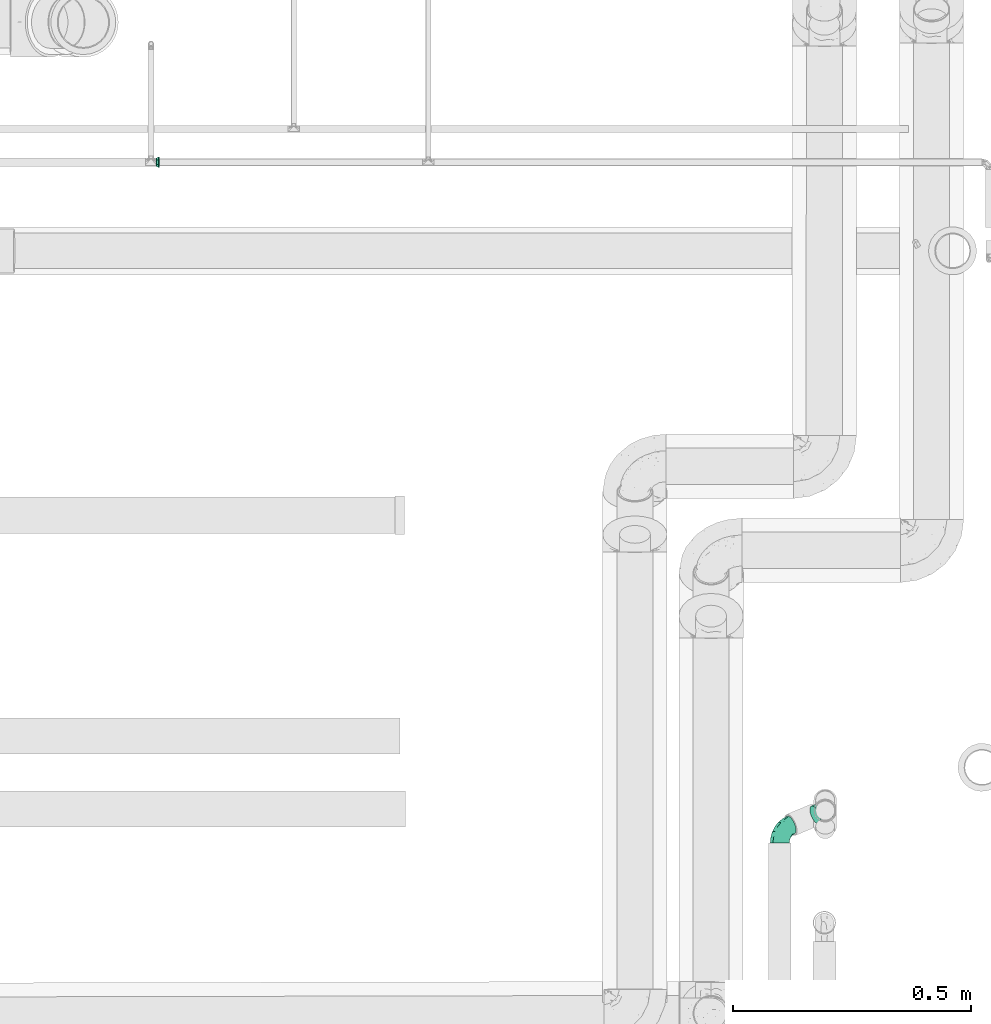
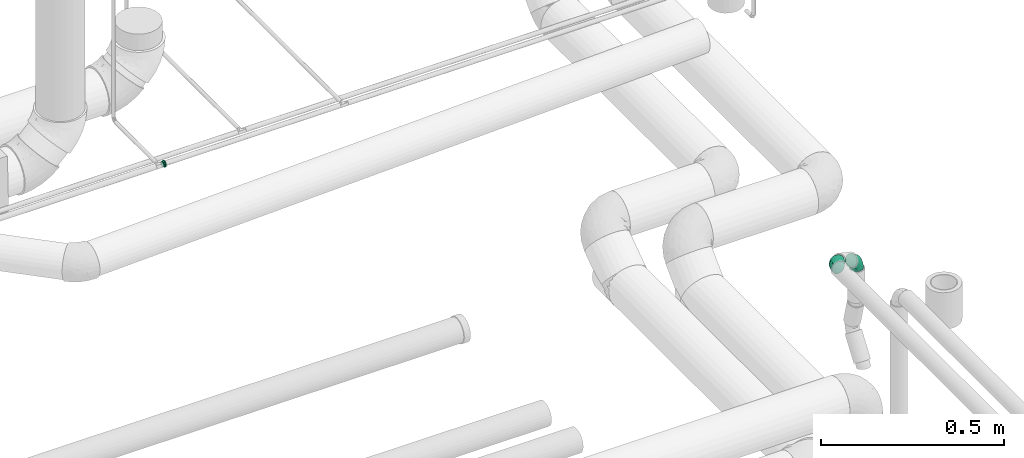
# One storey, part 150 of 156: 3 flow fittings.
"""IFC2X3 building model written with IfcOpenShell, lengths in millimetres."""

import ifcopenshell
import ifcopenshell.guid

model = None  # the IFC model being written
_history = None  # IfcOwnerHistory: only IFC2X3 demands one
_inside = {}  # id of a spatial element -> (the spatial element, [elements in it])
_under = {}  # id of a project, library or spatial element -> (it, [spatial elements below it])
_declared = {}  # id of a project -> (the project, [libraries it declares])
_typed = {}  # id of a type object -> (the type object, [elements of that type])
_made_of = {}  # id of a material, layer set ... -> (it, [elements and type objects made of it])


def new_model(schema):
    """Start an empty IFC model of exactly this schema.

    Asked for "IFC4X3", IfcOpenShell would pick the latest addendum, in which some entities
    have other attributes; the version numbers below select the first issue.
    IFC2X3 requires an IfcOwnerHistory on every rooted entity: one is made here for all.
    """
    global model, _history
    if schema == "IFC4X3":
        model = ifcopenshell.file(schema_version=(4, 3, 0, 0))
    else:
        model = ifcopenshell.file(schema=schema)
    _inside.clear()
    _under.clear()
    _declared.clear()
    _typed.clear()
    _made_of.clear()
    _history = None
    if model.schema == "IFC2X3":
        org = make("IfcOrganization", Name="unknown")
        user = make(
            "IfcPersonAndOrganization",
            ThePerson=make("IfcPerson", FamilyName="unknown"),
            TheOrganization=org,
        )
        app = make(
            "IfcApplication",
            ApplicationDeveloper=org,
            Version="unknown",
            ApplicationFullName="unknown",
            ApplicationIdentifier="unknown",
        )
        _history = make(
            "IfcOwnerHistory",
            OwningUser=user,
            OwningApplication=app,
            ChangeAction="ADDED",
            CreationDate=0,
        )
    return model


def make(cls, **values):
    """One entity of the class cls with the attributes given. An attribute that is None is left unset."""
    return model.create_entity(
        cls, **{name: value for name, value in values.items() if value is not None}
    )


def entity(cls, *values):
    """Any entity or typed value of the class cls, its attributes in the order of the schema. None: left unset."""
    e = model.create_entity(cls)
    for i, value in enumerate(values):
        if value is not None:
            e[i] = value
    return e


def rooted(cls, **values):
    """An entity with a GlobalId (a new one), such as an element, a storey or a relation."""
    return make(cls, GlobalId=ifcopenshell.guid.new(), OwnerHistory=_history, **values)


def si_unit(unit_type, name, prefix=None):
    """IfcSIUnit, for example si_unit("LENGTHUNIT", "METRE", prefix="MILLI")."""
    return make("IfcSIUnit", UnitType=unit_type, Prefix=prefix, Name=name)


def converted_unit(unit_type, name, factor, base, dimensions=None, offset=None):
    """IfcConversionBasedUnit, such as the inch: factor (a typed value) times the base unit."""
    return make(
        "IfcConversionBasedUnit"
        if offset is None
        else "IfcConversionBasedUnitWithOffset",
        ConversionOffset=offset,
        Dimensions=None
        if dimensions is None
        else entity("IfcDimensionalExponents", *dimensions),
        UnitType=unit_type,
        Name=name,
        ConversionFactor=make(
            "IfcMeasureWithUnit", ValueComponent=factor, UnitComponent=base
        ),
    )


def derived_unit(unit_type, elements):
    """IfcDerivedUnit: a product of units, each with its exponent."""
    return make(
        "IfcDerivedUnit",
        Elements=[
            make("IfcDerivedUnitElement", Unit=unit, Exponent=power)
            for unit, power in elements
        ],
        UnitType=unit_type,
    )


def assignment(units):
    """IfcUnitAssignment: the units of a project."""
    return None if units is None else make("IfcUnitAssignment", Units=units)


def point(xyz):
    """IfcCartesianPoint."""
    return None if xyz is None else make("IfcCartesianPoint", Coordinates=xyz)


def direction(xyz):
    """IfcDirection."""
    return None if xyz is None else make("IfcDirection", DirectionRatios=xyz)


def frame(location, z_axis=None, x_axis=None):
    """IfcAxis2Placement3D, a coordinate frame: its origin and axes. An axis left out is left unset."""
    return make(
        "IfcAxis2Placement3D",
        Location=point(location),
        Axis=direction(z_axis),
        RefDirection=direction(x_axis),
    )


def origin_with_axes():
    """The frame at (0, 0, 0) with the z axis (0, 0, 1) and the x axis (1, 0, 0) written out."""
    return frame((0.0, 0.0, 0.0), z_axis=(0.0, 0.0, 1.0), x_axis=(1.0, 0.0, 0.0))


def place(relative_to, where):
    """IfcLocalPlacement: puts the frame where relative to a parent placement (None: the world)."""
    return make(
        "IfcLocalPlacement", PlacementRelTo=relative_to, RelativePlacement=where
    )


def context(
    kind, dimensions, precision=None, world=None, true_north=None, identifier=None
):
    """IfcGeometricRepresentationContext, for example the 3D "Model" context."""
    return make(
        "IfcGeometricRepresentationContext",
        ContextIdentifier=identifier,
        ContextType=kind,
        CoordinateSpaceDimension=dimensions,
        Precision=precision,
        WorldCoordinateSystem=world,
        TrueNorth=true_north,
    )


def subcontext(parent, identifier, kind, view, scale=None):
    """IfcGeometricRepresentationSubContext, for example "Body" below "Model"."""
    return make(
        "IfcGeometricRepresentationSubContext",
        ContextIdentifier=identifier,
        ContextType=kind,
        ParentContext=parent,
        TargetScale=scale,
        TargetView=view,
    )


def project(units=None, contexts=None):
    """IfcProject with its units and contexts."""
    return rooted(
        "IfcProject",
        Name="project",
        RepresentationContexts=contexts,
        UnitsInContext=assignment(units),
    )


def spatial(cls, under=None, at=None, **own):
    """A site, building, storey or space (cls), placed at a placement, below another one or the project."""
    s = rooted(cls, ObjectPlacement=at, **own)
    if under is not None:
        _under.setdefault(under.id(), (under, []))[1].append(s)
    return s


def faces_of(points, faces, orient=None, outer=None):
    """IfcFace entities. A face is a list of loops; a loop is a list of indices into points, from 0.

    orient and outer hold one flag for each loop. By default every Orientation is true, the
    first loop of a face is its IfcFaceOuterBound and the others are IfcFaceBound.
    """
    made = []
    for i, loops in enumerate(faces):
        bounds = []
        for j, loop in enumerate(loops):
            is_outer = j == 0 if outer is None else outer[i][j]
            bounds.append(
                make(
                    "IfcFaceOuterBound" if is_outer else "IfcFaceBound",
                    Bound=make("IfcPolyLoop", Polygon=[points[k] for k in loop]),
                    Orientation=True if orient is None else orient[i][j],
                )
            )
        made.append(make("IfcFace", Bounds=bounds))
    return made


def open_shell(faces, orient=None, outer=None):
    """The faces of one IfcOpenShell. surface_model builds it on its shared points."""
    return ("IfcOpenShell", faces, orient, outer)


def surface_model(cls, points, shells):
    """IfcFaceBasedSurfaceModel or IfcShellBasedSurfaceModel (cls): surfaces that need not close."""
    shared = [point(p) for p in points]
    made = [make(c, CfsFaces=faces_of(shared, fs, o, b)) for c, fs, o, b in shells]
    if cls == "IfcFaceBasedSurfaceModel":
        return make(cls, FbsmFaces=made)
    return make(cls, SbsmBoundary=made)


def shape(context_of_items, identifier, shape_type, items):
    """IfcShapeRepresentation: the items that make up one representation, for example the "Body"."""
    return make(
        "IfcShapeRepresentation",
        ContextOfItems=context_of_items,
        RepresentationIdentifier=identifier,
        RepresentationType=shape_type,
        Items=items,
    )


def source(mapping_origin, context_of_items, identifier, shape_type, items):
    """IfcRepresentationMap: a shape defined once, which mapped items show again and again."""
    return make(
        "IfcRepresentationMap",
        MappingOrigin=mapping_origin,
        MappedRepresentation=shape(context_of_items, identifier, shape_type, items),
    )


def transform(
    local_origin,
    x_axis=None,
    y_axis=None,
    z_axis=None,
    scale=None,
    scale2=None,
    scale3=None,
    uniform=True,
):
    """IfcCartesianTransformationOperator3D, or its non-uniform kind. x_axis, y_axis, z_axis: its Axis1, 2, 3."""
    if uniform:
        return make(
            "IfcCartesianTransformationOperator3D",
            Axis1=direction(x_axis),
            Axis2=direction(y_axis),
            LocalOrigin=point(local_origin),
            Scale=scale,
            Axis3=direction(z_axis),
        )
    return make(
        "IfcCartesianTransformationOperator3DnonUniform",
        Axis1=direction(x_axis),
        Axis2=direction(y_axis),
        LocalOrigin=point(local_origin),
        Scale=scale,
        Axis3=direction(z_axis),
        Scale2=scale2,
        Scale3=scale3,
    )


def mapped(mapping_source, mapping_target):
    """IfcMappedItem: shows the shape of a source again, moved by a transform."""
    return make(
        "IfcMappedItem", MappingSource=mapping_source, MappingTarget=mapping_target
    )


def made_of(thing, what):
    """Note that an element or type object is made of a material, layer set ...; save() writes the relation."""
    if what is not None:
        _made_of.setdefault(what.id(), (what, []))[1].append(thing)
    return thing


def type_object(cls, material=None, **own):
    """A type object (cls), such as IfcWallType, which elements share."""
    return made_of(rooted(cls, **own), material)


def element(
    cls,
    number,
    at=None,
    inside=None,
    cuts=None,
    type_object=None,
    material=None,
    context=None,
    identifier="Body",
    shape_type=None,
    held_by="IfcProductDefinitionShape",
    body=None,
    shapes=None,
    **own,
):
    """One element of the class cls, such as IfcWall. Its Tag is "e" and its number.

    at: its placement. inside: the storey or other place that contains it. cuts: it is an
    opening in that element (IfcRelVoidsElement). A single representation is given by context,
    identifier, shape_type and body (its items); several are given by shapes. held_by: the class
    of the entity that holds the representations. save() writes the other relations.
    """
    e = rooted(cls, Tag="e%d" % number, ObjectPlacement=at, **own)
    if body is not None:
        shapes = [shape(context, identifier, shape_type, body)]
    if shapes is not None:
        e.Representation = make(held_by, Representations=shapes)
    if inside is not None:
        _inside.setdefault(inside.id(), (inside, []))[1].append(e)
    if cuts is not None:
        rooted(
            "IfcRelVoidsElement", RelatingBuildingElement=cuts, RelatedOpeningElement=e
        )
    if type_object is not None:
        _typed.setdefault(type_object.id(), (type_object, []))[1].append(e)
    return made_of(e, material)


def aggregate(whole, parts):
    """IfcRelAggregates: a whole, such as a stair, and the parts it consists of."""
    return rooted("IfcRelAggregates", RelatingObject=whole, RelatedObjects=parts)


def save(model, path):
    """Write the relations noted so far, then the file.

    IfcRelAggregates (storeys below a building ...), IfcRelContainedInSpatialStructure (elements
    in a storey), IfcRelDefinesByType, IfcRelAssociatesMaterial and IfcRelDeclares: one each for
    every whole, place, type object, material and project.
    """
    for whole, parts in _under.values():
        aggregate(whole, parts)
    for where, things in _inside.values():
        rooted(
            "IfcRelContainedInSpatialStructure",
            RelatedElements=things,
            RelatingStructure=where,
        )
    for kind, things in _typed.values():
        rooted("IfcRelDefinesByType", RelatedObjects=things, RelatingType=kind)
    for what, things in _made_of.values():
        rooted("IfcRelAssociatesMaterial", RelatedObjects=things, RelatingMaterial=what)
    for by, libraries in _declared.values():
        rooted("IfcRelDeclares", RelatingContext=by, RelatedDefinitions=libraries)
    model.write(path)


model = new_model("IFC2X3")

# Units and contexts
model_context = context("Model", 3, precision=0.01, world=frame((0.0, 4.29681676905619e-09, 0.0)), true_north=direction((4.01073788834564e-13, 1.0)))
plan_context = context("Plan", 3, precision=0.01, world=frame((0.0, 4.29681676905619e-09, 0.0)), true_north=direction((4.01073788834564e-13, 1.0)))
body_context = subcontext(model_context, "Body", "Model", "MODEL_VIEW")
ifc_project = project(units=[converted_unit("PLANEANGLEUNIT", "DEGREE", entity("IfcPositiveLengthMeasure", 0.0174532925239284), si_unit("PLANEANGLEUNIT", "RADIAN"), dimensions=[0, 0, 0, 0, 0, 0, 0]), si_unit("AREAUNIT", "SQUARE_METRE"), si_unit("LENGTHUNIT", "METRE", prefix="MILLI"), si_unit("MASSUNIT", "GRAM", prefix="KILO"), si_unit("POWERUNIT", "WATT"), si_unit("PRESSUREUNIT", "PASCAL", prefix="KILO"), si_unit("FORCEUNIT", "NEWTON", prefix="KILO"), si_unit("ELECTRICVOLTAGEUNIT", "VOLT"), si_unit("ELECTRICCURRENTUNIT", "AMPERE"), si_unit("THERMODYNAMICTEMPERATUREUNIT", "DEGREE_CELSIUS"), si_unit("TIMEUNIT", "SECOND"), si_unit("VOLUMEUNIT", "CUBIC_METRE"), derived_unit("LINEARVELOCITYUNIT", [(si_unit("LENGTHUNIT", "METRE"), 1), (si_unit("TIMEUNIT", "SECOND"), -1)]), derived_unit("VOLUMETRICFLOWRATEUNIT", [(si_unit("VOLUMEUNIT", "CUBIC_METRE"), 1), (si_unit("TIMEUNIT", "SECOND"), -1)]), derived_unit("THERMALTRANSMITTANCEUNIT", [(si_unit("POWERUNIT", "WATT"), 1), (si_unit("THERMODYNAMICTEMPERATUREUNIT", "KELVIN"), -1), (si_unit("AREAUNIT", "SQUARE_METRE"), -1)]), derived_unit("SOUNDPRESSUREUNIT", [(si_unit("PRESSUREUNIT", "PASCAL"), 1)])], contexts=[model_context, plan_context])

# Site, building, storey
site_placement = place(None, frame((0.0, -4.29681676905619e-09, 0.0), z_axis=(0.0, 0.0, 1.0), x_axis=(1.0, 0.0, 0.0)))
site = spatial("IfcSite", under=ifc_project, at=site_placement, CompositionType="ELEMENT")
building_placement = place(site_placement, frame((0.0, 4.29681676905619e-09, 0.0), z_axis=(0.0, 0.0, 1.0), x_axis=(1.0, 0.0, 0.0)))
building = spatial("IfcBuilding", under=site, at=building_placement, Name="mc-building", CompositionType="ELEMENT")
storey_placement = place(building_placement, frame((0.0, 0.0, 205200.0), z_axis=(0.0, 0.0, 1.0), x_axis=(1.0, 0.0, 0.0)))
storey = spatial("IfcBuildingStorey", under=building, at=storey_placement, Name="Nivå D + 1,2 m", CompositionType="ELEMENT", Elevation=205200.0)

# Flow fittings
pipe_fitting_type_1 = type_object("IfcPipeFittingType", Name="magi_pipe_fe_reducer_centric_short_001", PredefinedType="TRANSITION")
shared_shape_1 = source(origin_with_axes(), body_context, "Body", "SurfaceModel", [
    surface_model("IfcShellBasedSurfaceModel", [(-2.0, 0.0, 9.0), (-2.0, 2.32937, 8.69333), (-2.0, 4.5, 7.79423), (-2.0, 6.36396, 6.36396), (-2.0, -9.0, 0.0), (-2.0, -8.69333, -2.32937), (-2.0, 7.79423, 4.5), (-2.0, -2.32937, 8.69333), (-2.0, -6.36396, 6.36396), (-2.0, -4.5, 7.79423), (-2.0, -8.69333, 2.32937), (-2.0, -7.79423, 4.5), (-2.0, 8.69333, 2.32937), (-2.0, 8.69333, -2.32937), (-2.0, 6.36396, -6.36396), (-2.0, 7.79423, -4.5), (-2.0, 4.5, -7.79423), (-2.0, 2.32937, -8.69333), (-2.0, -4.5, -7.79423), (-2.0, -6.36396, -6.36396), (-2.0, -7.79423, -4.5), (-2.0, 0.0, -9.0), (-2.0, -2.32937, -8.69333), (-2.0, 9.0, 0.0), (0.0, 4.5, -7.79423), (0.0, -6.36396, -6.36396), (0.0, 2.32937, -8.69333), (0.0, 8.69333, -2.32937), (0.0, 6.36396, -6.36396), (0.0, 7.79423, -4.5), (0.0, 7.79423, 4.5), (0.0, -8.69333, -2.32937), (0.0, 0.0, -9.0), (0.0, -4.5, -7.79423), (0.0, -2.32937, -8.69333), (0.0, -7.79423, -4.5), (0.0, 9.0, 0.0), (0.0, 8.69333, 2.32937), (0.0, -9.0, 0.0), (0.0, 0.0, 9.0), (0.0, 6.36396, 6.36396), (0.0, 4.5, 7.79423), (0.0, 2.32937, 8.69333), (0.0, -6.36396, 6.36396), (0.0, -8.69333, 2.32937), (0.0, -7.79423, 4.5), (0.0, -2.32937, 8.69333), (0.0, -4.5, 7.79423), (3.4, -10.7, 0.0), (3.4, 5.35, 9.26647), (3.4, -5.35, 9.26647), (5.4, 5.35, -9.26647), (5.4, 0.0, -10.7), (5.4, 2.76936, -10.33541), (5.4, 10.33541, -2.76936), (5.4, 7.56604, -7.56604), (5.4, -5.35, -9.26647), (5.4, 9.26647, -5.35), (5.4, -9.26647, 5.35), (5.4, -2.76936, -10.33541), (5.4, -7.56604, -7.56604), (5.4, -10.33541, -2.76936), (5.4, -9.26647, -5.35), (5.4, 10.33541, 2.76936), (5.4, 10.7, 0.0), (5.4, 9.26647, 5.35), (5.4, 7.56604, 7.56604), (5.4, 2.76936, 10.33541), (5.4, 0.0, 10.7), (5.4, 5.35, 9.26647), (5.4, -10.33541, 2.76936), (5.4, -10.7, 0.0), (5.4, -7.56604, 7.56604), (5.4, -2.76936, 10.33541), (5.4, -5.35, 9.26647), (3.4, 0.0, 10.7), (3.4, 2.76936, 10.33541), (3.4, 7.56604, 7.56604), (3.4, 9.26647, 5.35), (3.4, 10.33541, 2.76936), (3.4, -10.33541, 2.76936), (3.4, 10.33541, -2.76936), (3.4, -2.76936, 10.33541), (3.4, -7.56604, 7.56604), (3.4, -9.26647, 5.35), (3.4, -10.33541, -2.76936), (3.4, 2.76936, -10.33541), (3.4, 9.26647, -5.35), (3.4, 7.56604, -7.56604), (3.4, 5.35, -9.26647), (3.4, -7.56604, -7.56604), (3.4, -9.26647, -5.35), (3.4, -5.35, -9.26647), (3.4, 0.0, -10.7), (3.4, -2.76936, -10.33541), (3.4, 10.7, 0.0)], [open_shell([[[0, 1, 2]], [[0, 2, 3]], [[4, 0, 5]], [[6, 0, 3]], [[6, 5, 0]], [[7, 8, 9]], [[7, 0, 8]], [[8, 10, 11]], [[10, 8, 4]], [[0, 4, 8]], [[6, 12, 13]], [[5, 6, 13]], [[14, 13, 15]], [[13, 16, 5]], [[16, 13, 14]], [[17, 18, 16]], [[5, 19, 20]], [[5, 16, 19]], [[18, 21, 22]], [[18, 19, 16]], [[21, 18, 17]], [[13, 12, 23]], [[24, 25, 26]], [[27, 24, 28]], [[25, 24, 27]], [[27, 28, 29]], [[30, 31, 27]], [[32, 33, 34]], [[33, 32, 25]], [[25, 31, 35]], [[25, 32, 26]], [[27, 31, 25]], [[27, 36, 37]], [[38, 31, 30]], [[39, 30, 40]], [[41, 42, 39]], [[41, 39, 40]], [[43, 30, 39]], [[44, 43, 45]], [[43, 44, 38]], [[43, 46, 47]], [[43, 38, 30]], [[39, 46, 43]], [[30, 27, 37]], [[5, 31, 4]], [[20, 35, 5]], [[33, 19, 18]], [[20, 19, 25]], [[34, 18, 22]], [[5, 35, 31]], [[31, 38, 4]], [[34, 33, 18]], [[25, 19, 33]], [[25, 35, 20]], [[32, 34, 22]], [[22, 21, 32]], [[17, 26, 21]], [[16, 24, 17]], [[29, 14, 15]], [[16, 14, 28]], [[27, 15, 13]], [[16, 28, 24]], [[24, 26, 17]], [[36, 27, 13]], [[29, 15, 27]], [[29, 28, 14]], [[23, 36, 13]], [[21, 26, 32]], [[12, 37, 23]], [[6, 30, 12]], [[41, 3, 2]], [[6, 3, 40]], [[42, 2, 1]], [[12, 30, 37]], [[37, 36, 23]], [[42, 41, 2]], [[40, 3, 41]], [[40, 30, 6]], [[39, 42, 1]], [[1, 0, 39]], [[7, 46, 0]], [[9, 47, 7]], [[45, 8, 11]], [[9, 8, 43]], [[44, 11, 10]], [[9, 43, 47]], [[47, 46, 7]], [[38, 44, 10]], [[45, 11, 44]], [[45, 43, 8]], [[4, 38, 10]], [[0, 46, 39]], [[38, 47, 33]], [[36, 47, 41]], [[36, 24, 33]], [[36, 33, 47]], [[48, 49, 50]], [[51, 52, 53]], [[54, 51, 55]], [[56, 51, 54]], [[54, 55, 57]], [[58, 56, 54]], [[52, 56, 59]], [[52, 51, 56]], [[60, 61, 62]], [[61, 60, 56]], [[56, 58, 61]], [[63, 54, 64]], [[63, 65, 66]], [[54, 66, 58]], [[67, 68, 66]], [[67, 66, 69]], [[58, 66, 68]], [[61, 70, 71]], [[58, 70, 61]], [[72, 73, 74]], [[73, 72, 58]], [[68, 73, 58]], [[54, 63, 66]], [[75, 76, 49]], [[75, 49, 77]], [[77, 78, 79]], [[75, 77, 80]], [[81, 80, 77]], [[82, 83, 50]], [[83, 82, 80]], [[83, 80, 84]], [[82, 75, 80]], [[80, 85, 48]], [[81, 77, 79]], [[85, 80, 81]], [[86, 81, 87]], [[88, 89, 86]], [[88, 86, 87]], [[85, 81, 86]], [[85, 90, 91]], [[90, 85, 92]], [[92, 93, 94]], [[92, 85, 86]], [[86, 93, 92]], [[81, 79, 95]], [[85, 61, 48]], [[91, 62, 85]], [[56, 90, 92]], [[91, 90, 60]], [[59, 92, 94]], [[85, 62, 61]], [[61, 71, 48]], [[59, 56, 92]], [[60, 90, 56]], [[60, 62, 91]], [[52, 59, 94]], [[94, 93, 52]], [[86, 53, 93]], [[89, 51, 86]], [[57, 88, 87]], [[89, 88, 55]], [[54, 87, 81]], [[89, 55, 51]], [[51, 53, 86]], [[64, 54, 81]], [[57, 87, 54]], [[57, 55, 88]], [[95, 64, 81]], [[93, 53, 52]], [[79, 63, 95]], [[78, 65, 79]], [[69, 77, 49]], [[78, 77, 66]], [[67, 49, 76]], [[79, 65, 63]], [[63, 64, 95]], [[67, 69, 49]], [[66, 77, 69]], [[66, 65, 78]], [[68, 67, 76]], [[76, 75, 68]], [[82, 73, 75]], [[50, 74, 82]], [[58, 83, 84]], [[50, 83, 72]], [[70, 84, 80]], [[50, 72, 74]], [[74, 73, 82]], [[71, 70, 80]], [[58, 84, 70]], [[58, 72, 83]], [[48, 71, 80]], [[75, 73, 68]], [[49, 89, 95]], [[48, 92, 89]], [[48, 89, 49]], [[38, 33, 92]], [[92, 48, 38]], [[33, 89, 92]], [[24, 36, 95]], [[95, 89, 24]], [[24, 89, 33]], [[36, 41, 49]], [[49, 95, 36]], [[41, 50, 49]], [[47, 38, 48]], [[48, 50, 47]], [[47, 50, 41]]])]),
])
flow_fitting_1_placement = place(storey_placement, frame((328693.53073, 462313.63355, 4318.0), z_axis=(0.0, 0.0, 1.0), x_axis=(1.0, 0.0, 0.0)))
element("IfcFlowFitting", 1, at=flow_fitting_1_placement, inside=storey, type_object=pipe_fitting_type_1, Name="magi_pipe_fe_reducer_centric_short_001", context=body_context, shape_type="MappedRepresentation", body=[
    mapped(shared_shape_1, transform((0.0, 0.0, 0.0), scale=1.0)),
])
pipe_fitting_type_2 = type_object("IfcPipeFittingType", Name="magi_pipe_elbow_short_001", PredefinedType="BEND")
shared_shape_2 = source(origin_with_axes(), body_context, "Body", "SurfaceModel", [
    surface_model("IfcShellBasedSurfaceModel", [(-25.33915, 5.17638, -19.31852), (-25.33915, 0.0, -20.0), (-25.33915, 14.14214, -14.14214), (-25.33915, 10.0, -17.32051), (-25.33915, 19.31852, -5.17638), (-25.33915, 17.32051, -10.0), (-25.33915, -14.14214, -14.14214), (-25.33915, -20.0, 0.0), (-25.33915, 17.32051, 10.0), (-25.33915, -10.0, -17.32051), (-25.33915, -5.17638, -19.31852), (-25.33915, -19.31852, -5.17638), (-25.33915, -17.32051, -10.0), (-25.33915, 20.0, 0.0), (-25.33915, 19.31852, 5.17638), (-25.33915, 5.17638, 19.31852), (-25.33915, 10.0, 17.32051), (-25.33915, 14.14214, 14.14214), (-25.33915, -14.14214, 14.14214), (-25.33915, -19.31852, 5.17638), (-25.33915, -17.32051, 10.0), (-25.33915, -10.0, 17.32051), (-25.33915, -5.17638, 19.31852), (-25.33915, 0.0, 20.0), (-1.9602, 28.95221, -14.14214), (10.82617, 22.90997, -20.0), (6.14603, 25.12158, -19.31852), (1.78484, 27.18248, -17.32051), (23.61255, 16.86773, 14.14214), (-4.83387, 30.31017, -10.0), (26.48622, 15.50977, -10.0), (28.90884, 14.36495, 0.0), (15.50631, 20.69836, -19.31852), (23.61255, 16.86773, -14.14214), (19.86751, 18.63746, -17.32051), (28.29268, 14.65612, -5.17638), (-7.25649, 31.45498, 0.0), (-6.64034, 31.16382, -5.17638), (-6.64034, 31.16382, 5.17638), (-4.83387, 30.31017, 10.0), (6.14603, 25.12158, 19.31852), (1.78484, 27.18248, 17.32051), (-1.9602, 28.95221, 14.14214), (26.48622, 15.50977, 10.0), (28.29268, 14.65612, 5.17638), (19.86751, 18.63746, 17.32051), (15.50631, 20.69836, 19.31852), (10.82617, 22.90997, 20.0), (-17.92074, -15.73335, 11.69413), (-14.16872, -17.74104, 6.79139), (-3.28194, -15.79856, 0.0), (-1.39166, -13.99908, 6.02469), (21.88169, 9.48065, 11.69413), (22.09386, 5.23053, 6.79139), (-18.05142, -7.65003, 18.23986), (-14.51222, -2.15616, 19.68703), (-13.94355, -11.65356, 15.28732), (-8.98589, -6.07719, 17.91403), (-4.85156, -10.32815, 13.94308), (-3.67978, 21.60649, 16.30347), (-14.69235, 8.45952, 18.84044), (-8.71649, -14.16542, 11.06745), (8.14981, 12.19975, 19.68703), (4.26485, 15.84842, 19.91937), (-16.15124, 2.91525, 19.91937), (-9.74646, 15.38562, 16.7931), (-17.96296, 12.5584, 16.30347), (0.46086, 3.08325, 19.35488), (1.30474, -2.05964, 17.44082), (9.33381, 5.52796, 17.91403), (1.93355, -10.18443, 10.34556), (-16.72943, 16.85531, 12.87373), (-13.54213, 21.3774, 8.8096), (-20.00499, 18.92595, 8.15618), (15.68621, -3.78264, 0.0), (13.25162, -4.72287, 6.02469), (-18.60121, 20.82922, 3.56557), (14.62913, 13.05241, 18.23986), (-15.57368, -18.13988, 0.0), (3.57169, -5.63821, 14.25846), (9.32539, -4.51076, 11.42338), (10.94621, 0.20914, 14.42731), (-4.29347, 6.7776, 19.98869), (23.05473, 6.3304, 0.0), (16.49376, 7.62784, 15.28732), (16.53155, 1.82868, 11.06745), (-6.94745, 1.45424, 19.81573), (-8.56443, 26.1733, 8.15618), (-11.84964, 24.53983, 4.52189), (-14.63636, 23.10473, 0.0), (-8.09178, 22.32708, 12.87373), (-7.70691, 12.16601, 18.71581), (-1.37121, 16.89818, 18.84044), (4.14327, -11.90259, 3.49843), (6.20214, -9.7906, 0.0), (6.11428, -9.6519, 6.88899), (-8.71649, -14.16542, -11.06745), (-13.94355, -11.65356, -15.28732), (-4.93099, -8.42804, -15.57029), (8.14981, 12.19975, -19.68703), (-1.37121, 16.89818, -18.84044), (-16.15124, 2.91525, -19.91937), (-14.51222, -2.15616, -19.68703), (-16.31649, 21.57243, -4.52189), (-13.54213, 21.3774, -8.8096), (-20.00499, 18.92595, -8.15618), (14.62913, 13.05241, -18.23986), (-16.72944, 16.85531, -12.87373), (21.88169, 9.48065, -11.69413), (-8.98589, -6.07719, -17.91403), (-2.98458, 0.90064, -19.35488), (-1.39166, -13.99908, -6.02469), (-14.16872, -17.74104, -6.79139), (-14.69235, 8.45951, -18.84044), (16.53155, 1.82868, -11.06745), (9.32539, -4.51076, -11.42338), (10.94621, 0.20914, -14.42731), (4.26485, 15.84842, -19.91937), (-4.29347, 6.7776, -19.98869), (-18.05142, -7.65003, -18.23986), (22.09386, 5.23053, -6.79139), (-17.92074, -15.73335, -11.69413), (-7.70691, 12.166, -18.71581), (1.65348, 6.90274, -19.81573), (9.33381, 5.52796, -17.91403), (-10.53102, 26.17387, -3.21064), (-8.09178, 22.32708, -12.87373), (-8.56443, 26.1733, -8.15618), (-9.74646, 15.38561, -16.7931), (-3.67978, 21.60649, -16.30347), (-17.96296, 12.5584, -16.30347), (1.30474, -2.05964, -17.44082), (16.49376, 7.62784, -15.28732), (13.25162, -4.72287, -6.02469), (6.11428, -9.6519, -6.88899), (1.93355, -10.18443, -10.34556), (8.99131, -8.83146, -3.49843), (3.57169, -5.63821, -14.25846)], [open_shell([[[0, 1, 2]], [[3, 0, 2]], [[4, 5, 2]], [[6, 2, 1]], [[2, 7, 8]], [[9, 6, 10]], [[6, 1, 10]], [[11, 7, 12]], [[6, 12, 7]], [[6, 7, 2]], [[13, 4, 2]], [[8, 14, 13]], [[7, 15, 8]], [[8, 15, 16]], [[17, 8, 16]], [[18, 15, 7]], [[19, 20, 7]], [[7, 20, 18]], [[21, 22, 18]], [[22, 15, 18]], [[15, 22, 23]], [[8, 13, 2]], [[24, 25, 26]], [[24, 26, 27]], [[28, 24, 29]], [[25, 24, 30]], [[28, 31, 24]], [[32, 33, 34]], [[33, 32, 30]], [[30, 31, 35]], [[30, 32, 25]], [[24, 31, 30]], [[36, 29, 37]], [[36, 38, 39]], [[36, 39, 40]], [[41, 40, 39]], [[41, 39, 42]], [[36, 40, 28]], [[28, 43, 31]], [[44, 31, 43]], [[40, 45, 28]], [[40, 46, 45]], [[46, 40, 47]], [[29, 36, 28]], [[18, 20, 48]], [[49, 50, 51]], [[52, 53, 43]], [[54, 55, 22]], [[18, 56, 21]], [[57, 56, 58]], [[41, 42, 59]], [[18, 48, 56]], [[22, 21, 54]], [[16, 15, 60]], [[58, 56, 61]], [[62, 47, 63]], [[64, 15, 23]], [[60, 65, 66]], [[67, 68, 69]], [[69, 62, 67]], [[20, 19, 49]], [[66, 17, 16]], [[70, 61, 51]], [[71, 72, 73]], [[14, 8, 73]], [[74, 53, 75]], [[76, 13, 14]], [[22, 55, 23]], [[61, 49, 51]], [[62, 46, 47]], [[69, 77, 62]], [[46, 77, 45]], [[19, 7, 78]], [[79, 80, 81]], [[67, 62, 82]], [[74, 83, 53]], [[52, 84, 85]], [[45, 84, 28]], [[47, 40, 63]], [[53, 44, 43]], [[86, 57, 67]], [[83, 31, 44]], [[39, 38, 87]], [[72, 88, 76]], [[84, 45, 77]], [[89, 88, 36]], [[8, 17, 71]], [[88, 72, 87]], [[82, 62, 63]], [[87, 90, 39]], [[91, 82, 92]], [[39, 90, 42]], [[60, 91, 65]], [[92, 40, 41]], [[41, 59, 92]], [[64, 23, 55]], [[61, 48, 49]], [[28, 52, 43]], [[64, 82, 60]], [[69, 68, 81]], [[54, 56, 57]], [[19, 78, 49]], [[50, 49, 78]], [[53, 85, 75]], [[83, 44, 53]], [[66, 71, 17]], [[65, 59, 90]], [[72, 71, 90]], [[65, 90, 71]], [[93, 50, 94]], [[79, 58, 70]], [[70, 80, 79]], [[75, 95, 93]], [[40, 92, 63]], [[82, 63, 92]], [[64, 55, 86]], [[60, 15, 64]], [[86, 67, 82]], [[68, 67, 57]], [[60, 66, 16]], [[74, 75, 94]], [[71, 66, 65]], [[90, 59, 42]], [[92, 59, 65]], [[58, 68, 57]], [[81, 68, 79]], [[51, 95, 70]], [[80, 75, 85]], [[80, 70, 95]], [[81, 85, 84]], [[85, 81, 80]], [[69, 81, 84]], [[62, 77, 46]], [[84, 77, 69]], [[56, 54, 21]], [[55, 54, 57]], [[49, 48, 20]], [[56, 48, 61]], [[84, 52, 28]], [[53, 52, 85]], [[93, 95, 51]], [[80, 95, 75]], [[50, 93, 51]], [[75, 93, 94]], [[36, 88, 38]], [[76, 88, 89]], [[13, 76, 89]], [[76, 14, 73]], [[71, 73, 8]], [[76, 73, 72]], [[88, 87, 38]], [[90, 87, 72]], [[82, 91, 60]], [[92, 65, 91]], [[70, 58, 61]], [[58, 79, 68]], [[64, 86, 82]], [[57, 86, 55]], [[96, 97, 98]], [[32, 99, 25]], [[27, 26, 100]], [[1, 101, 102]], [[103, 104, 105]], [[106, 99, 32]], [[107, 5, 105]], [[33, 30, 108]], [[107, 2, 5]], [[109, 102, 110]], [[111, 50, 112]], [[0, 3, 113]], [[112, 11, 12]], [[114, 115, 116]], [[117, 118, 100]], [[112, 50, 78]], [[119, 97, 9]], [[114, 108, 120]], [[9, 97, 6]], [[6, 121, 12]], [[102, 109, 119]], [[117, 25, 99]], [[121, 112, 12]], [[122, 118, 113]], [[13, 89, 103]], [[123, 124, 110]], [[36, 37, 125]], [[118, 102, 101]], [[102, 10, 1]], [[105, 5, 4]], [[126, 104, 127]], [[9, 10, 119]], [[128, 129, 100]], [[130, 113, 3]], [[24, 27, 129]], [[2, 130, 3]], [[110, 131, 109]], [[117, 26, 25]], [[132, 33, 108]], [[30, 35, 120]], [[133, 114, 120]], [[34, 33, 132]], [[134, 115, 133]], [[34, 106, 32]], [[98, 97, 109]], [[122, 113, 128]], [[74, 133, 120]], [[35, 31, 83]], [[121, 97, 96]], [[124, 132, 116]], [[29, 24, 126]], [[37, 29, 127]], [[1, 0, 101]], [[104, 103, 125]], [[110, 102, 118]], [[78, 7, 11]], [[106, 132, 124]], [[112, 96, 111]], [[78, 11, 112]], [[35, 83, 120]], [[74, 120, 83]], [[129, 126, 24]], [[128, 130, 107]], [[104, 126, 107]], [[128, 107, 126]], [[98, 135, 96]], [[111, 134, 136]], [[107, 130, 2]], [[135, 111, 96]], [[0, 113, 101]], [[118, 101, 113]], [[117, 99, 123]], [[100, 26, 117]], [[123, 110, 118]], [[131, 110, 124]], [[136, 74, 94]], [[94, 50, 111]], [[113, 130, 128]], [[100, 129, 27]], [[126, 129, 128]], [[116, 131, 124]], [[98, 131, 137]], [[115, 135, 137]], [[134, 111, 135]], [[116, 115, 137]], [[133, 115, 114]], [[116, 137, 131]], [[114, 116, 132]], [[102, 119, 10]], [[97, 119, 109]], [[132, 106, 34]], [[99, 106, 124]], [[120, 108, 30]], [[132, 108, 114]], [[97, 121, 6]], [[112, 121, 96]], [[115, 134, 135]], [[136, 134, 133]], [[74, 136, 133]], [[111, 136, 94]], [[4, 13, 103]], [[107, 105, 104]], [[4, 103, 105]], [[125, 103, 89]], [[36, 125, 89]], [[125, 37, 127]], [[126, 127, 29]], [[125, 127, 104]], [[128, 100, 122]], [[118, 122, 100]], [[131, 98, 109]], [[98, 137, 135]], [[117, 123, 118]], [[124, 123, 99]]])]),
])
flow_fitting_2_placement = place(storey_placement, frame((330096.89132, 460952.5182, 4332.16847), z_axis=(0.387277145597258, -0.921963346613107, 0.0), x_axis=(0.0, 0.0, 1.0)))
element("IfcFlowFitting", 2, at=flow_fitting_2_placement, inside=storey, type_object=pipe_fitting_type_2, Name="magi_pipe_elbow_short_001", context=body_context, shape_type="MappedRepresentation", body=[
    mapped(shared_shape_2, transform((0.0, 0.0, 0.0), scale=1.0)),
])
shared_shape_3 = source(origin_with_axes(), body_context, "Body", "SurfaceModel", [
    surface_model("IfcShellBasedSurfaceModel", [(-27.74998, 5.17638, -19.31852), (-27.74998, 0.0, -20.0), (-27.74998, 14.14214, -14.14214), (-27.74998, 10.0, -17.32051), (-27.74998, 19.31852, -5.17638), (-27.74998, 17.32051, -10.0), (-27.74998, -14.14214, -14.14214), (-27.74998, -20.0, 0.0), (-27.74998, 17.32051, 10.0), (-27.74998, -10.0, -17.32051), (-27.74998, -5.17638, -19.31852), (-27.74998, -19.31852, -5.17638), (-27.74998, -17.32051, -10.0), (-27.74998, 20.0, 0.0), (-27.74998, 19.31852, 5.17638), (-27.74998, 5.17638, 19.31852), (-27.74998, 10.0, 17.32051), (-27.74998, 14.14214, 14.14214), (-27.74998, -14.14214, 14.14214), (-27.74998, -19.31852, 5.17638), (-27.74998, -17.32051, 10.0), (-27.74998, -10.0, 17.32051), (-27.74998, -5.17638, 19.31852), (-27.74998, 0.0, 20.0), (4.86875, 27.8056, -19.31852), (25.94122, 19.92773, -10.0), (9.71738, 25.99296, -20.0), (-3.52933, 30.9452, -14.14214), (0.35054, 29.49472, -17.32051), (-9.0163, 32.99648, 0.0), (-6.50646, 32.05818, -10.0), (25.94122, 19.92773, 10.0), (14.56601, 24.18031, -19.31852), (22.96409, 21.04072, -14.14214), (19.08422, 22.4912, -17.32051), (28.45106, 18.98944, 0.0), (27.81272, 19.22807, -5.17638), (-8.37797, 32.75784, -5.17638), (-8.37797, 32.75784, 5.17638), (-6.50646, 32.05818, 10.0), (4.86875, 27.8056, 19.31852), (0.35054, 29.49472, 17.32051), (-3.52933, 30.9452, 14.14214), (22.96409, 21.04072, 14.14214), (27.81272, 19.22807, 5.17638), (14.56601, 24.18031, 19.31852), (19.08422, 22.4912, 17.32051), (9.71738, 25.99296, 20.0), (-19.73721, -15.70586, 11.61843), (5.35211, -8.71703, 6.54418), (2.11358, -8.53476, 10.5575), (-4.8612, -14.40977, 6.15877), (21.62293, 12.98771, 11.61843), (22.25707, 8.98433, 6.69958), (-19.87462, -7.64246, 18.20145), (-16.55308, -2.1587, 19.66962), (-15.96995, -11.64355, 15.22426), (-4.54311, -9.82628, 13.26766), (-4.07702, -6.28715, 16.00787), (-4.94537, 22.87857, 16.37469), (-16.57735, 8.51831, 18.88152), (-10.08923, -13.94489, 10.90995), (7.81851, 14.74908, 19.66962), (3.78127, 18.31163, 19.92505), (-18.47631, 2.87044, 19.92505), (-11.02255, 15.88838, 16.92597), (-19.69824, 12.64377, 16.37469), (1.04483, -0.80256, 17.35509), (9.13436, 7.64909, 17.82942), (0.86949, 5.19879, 19.34992), (-16.20937, -17.70174, 6.69958), (14.83748, -0.96643, 5.95577), (10.17313, -3.20416, 9.70582), (-18.82941, 16.90584, 12.94819), (-15.13479, 21.81593, 8.98425), (-21.11166, 19.72376, 7.18522), (-13.60473, 25.10669, 4.61682), (-21.14088, 20.83581, 3.28608), (16.49862, 10.8815, 15.22426), (14.11819, 15.94003, 18.20145), (-18.02025, -18.00567, 0.0), (3.19652, -4.6076, 13.99158), (10.73787, 0.63299, 13.16589), (1.75645, 11.27801, 19.96531), (19.41448, 4.57369, 0.0), (16.59496, 4.56726, 10.90995), (-10.36342, -5.87748, 17.82942), (-7.62081, 1.45028, 19.69338), (23.17588, 10.57412, 0.0), (-10.40516, 27.03667, 7.96366), (-16.34977, 23.56725, 0.0), (-1.91539, 13.45014, 19.78047), (-9.24182, 23.55722, 12.94819), (-8.58347, 12.37258, 18.95672), (-2.17398, 18.51064, 18.88152), (-11.92781, 6.50404, 19.78047), (11.03493, 4.82084, 15.72151), (-11.08259, -16.58363, 0.0), (-4.14494, -15.1616, 0.0), (5.75407, -8.29417, 0.0), (-5.16254, 7.44151, 19.99651), (15.65308, -1.42673, 0.0), (-0.5611, -10.65102, -9.70582), (-4.35306, -9.83634, -13.16589), (3.19652, -4.6076, -13.99158), (7.81851, 14.74908, -19.66962), (-10.36342, -5.87748, -17.82942), (-16.55308, -2.1587, -19.66962), (-5.1741, 1.00605, -19.34992), (-18.47631, 2.87044, -19.92505), (-21.14089, 20.83581, -3.28608), (14.11819, 15.94003, -18.20145), (-18.82941, 16.90584, -12.94819), (-21.11166, 19.72376, -7.18522), (7.25425, -4.96842, -10.5575), (6.29092, -8.06573, -6.54418), (-2.17398, 18.51064, -18.88152), (22.25707, 8.98433, -6.69958), (15.19968, -0.49255, -6.15877), (16.59496, 4.56726, -10.90995), (-16.57735, 8.51831, -18.88152), (-16.20937, -17.70174, -6.69958), (10.79501, 0.81453, -13.26766), (3.78127, 18.31163, -19.92505), (-1.91539, 13.45014, -19.78047), (-4.29049, -14.23645, -5.95577), (-19.87462, -7.64246, -18.20145), (21.62293, 12.98771, -11.61843), (-15.96995, -11.64355, -15.22426), (-19.73721, -15.70586, -11.61843), (-11.02255, 15.88837, -16.92597), (-8.58347, 12.37258, -18.95672), (9.13436, 7.64909, -17.82942), (0.38587, -1.25971, -17.35509), (1.31017, 7.64614, -19.69338), (-13.60473, 25.10669, -4.61682), (-11.92781, 6.50404, -19.78047), (-11.17899, 2.30405, -19.96531), (-9.24182, 23.55722, -12.94819), (-15.13479, 21.81593, -8.98425), (-10.40516, 27.03667, -7.96366), (-4.94537, 22.87857, -16.37469), (-19.69824, 12.64377, -16.37469), (16.49862, 10.8815, -15.22426), (-8.37977, -8.6481, -15.72151), (-10.08923, -13.94489, -10.90995), (7.31675, 1.61727, -16.00786), (-5.16254, 7.44151, -19.99651)], [open_shell([[[0, 1, 2]], [[3, 0, 2]], [[4, 5, 2]], [[6, 2, 1]], [[2, 7, 8]], [[9, 6, 10]], [[6, 1, 10]], [[11, 7, 12]], [[6, 12, 7]], [[6, 7, 2]], [[13, 4, 2]], [[8, 14, 13]], [[7, 15, 8]], [[8, 15, 16]], [[17, 8, 16]], [[18, 15, 7]], [[19, 20, 7]], [[7, 20, 18]], [[21, 22, 18]], [[22, 15, 18]], [[15, 22, 23]], [[8, 13, 2]], [[24, 25, 26]], [[27, 24, 28]], [[29, 27, 30]], [[31, 25, 24]], [[24, 27, 31]], [[32, 33, 34]], [[33, 32, 25]], [[25, 35, 36]], [[25, 32, 26]], [[25, 31, 35]], [[29, 30, 37]], [[29, 38, 39]], [[29, 39, 40]], [[41, 40, 39]], [[41, 39, 42]], [[29, 40, 43]], [[43, 31, 27]], [[44, 35, 31]], [[43, 45, 46]], [[43, 40, 45]], [[45, 40, 47]], [[27, 29, 43]], [[48, 18, 20]], [[49, 50, 51]], [[52, 53, 31]], [[54, 55, 22]], [[18, 56, 21]], [[56, 57, 58]], [[41, 42, 59]], [[18, 48, 56]], [[22, 21, 54]], [[16, 15, 60]], [[57, 61, 50]], [[62, 47, 63]], [[64, 15, 23]], [[60, 65, 66]], [[67, 68, 69]], [[68, 62, 69]], [[20, 19, 70]], [[66, 17, 16]], [[71, 72, 49]], [[73, 74, 75]], [[74, 76, 75]], [[70, 51, 61]], [[77, 13, 14]], [[22, 55, 23]], [[78, 46, 79]], [[62, 45, 47]], [[68, 79, 62]], [[79, 46, 45]], [[19, 7, 80]], [[81, 72, 82]], [[62, 83, 69]], [[71, 84, 53]], [[52, 78, 85]], [[46, 78, 43]], [[47, 40, 63]], [[53, 44, 31]], [[86, 67, 87]], [[88, 35, 44]], [[38, 76, 89]], [[13, 77, 90]], [[50, 49, 72]], [[90, 76, 29]], [[8, 17, 73]], [[90, 77, 76]], [[63, 91, 83]], [[89, 92, 39]], [[65, 93, 94]], [[42, 39, 92]], [[93, 65, 60]], [[94, 40, 41]], [[41, 59, 94]], [[64, 23, 55]], [[61, 48, 70]], [[43, 52, 31]], [[64, 95, 60]], [[81, 96, 67]], [[54, 56, 86]], [[19, 80, 70]], [[97, 98, 51]], [[72, 71, 85]], [[88, 44, 53]], [[66, 73, 17]], [[92, 73, 65]], [[73, 92, 74]], [[59, 92, 65]], [[51, 98, 99]], [[71, 53, 85]], [[40, 94, 63]], [[91, 63, 94]], [[64, 55, 87]], [[60, 15, 64]], [[60, 66, 16]], [[73, 66, 65]], [[92, 59, 42]], [[94, 59, 65]], [[71, 49, 99]], [[51, 99, 49]], [[87, 69, 100]], [[81, 82, 96]], [[87, 67, 69]], [[58, 67, 86]], [[51, 70, 97]], [[101, 71, 99]], [[62, 79, 45]], [[78, 79, 68]], [[56, 54, 21]], [[55, 54, 86]], [[70, 48, 20]], [[56, 48, 61]], [[78, 52, 43]], [[53, 52, 85]], [[75, 77, 14]], [[77, 75, 76]], [[89, 76, 74]], [[29, 76, 38]], [[14, 8, 75]], [[73, 75, 8]], [[92, 89, 74]], [[39, 38, 89]], [[82, 72, 85]], [[50, 72, 81]], [[57, 50, 81]], [[51, 50, 61]], [[81, 67, 58]], [[56, 61, 57]], [[85, 78, 82]], [[96, 82, 78]], [[87, 100, 95]], [[86, 87, 55]], [[95, 93, 60]], [[91, 93, 100]], [[70, 80, 97]], [[84, 71, 101]], [[84, 88, 53]], [[93, 91, 94]], [[83, 91, 100]], [[69, 83, 100]], [[63, 83, 62]], [[87, 95, 64]], [[93, 95, 100]], [[56, 58, 86]], [[81, 58, 57]], [[78, 68, 96]], [[67, 96, 68]], [[102, 103, 104]], [[32, 105, 26]], [[106, 107, 108]], [[1, 109, 107]], [[13, 110, 4]], [[111, 105, 32]], [[112, 5, 113]], [[114, 115, 102]], [[5, 112, 2]], [[28, 24, 116]], [[117, 118, 119]], [[0, 3, 120]], [[121, 11, 12]], [[122, 119, 114]], [[123, 124, 116]], [[125, 97, 121]], [[126, 9, 10]], [[119, 127, 117]], [[9, 128, 6]], [[6, 129, 12]], [[107, 106, 126]], [[123, 26, 105]], [[129, 121, 12]], [[130, 131, 120]], [[13, 90, 110]], [[132, 133, 134]], [[29, 37, 135]], [[109, 136, 137]], [[107, 10, 1]], [[113, 4, 110]], [[138, 139, 140]], [[127, 33, 25]], [[130, 141, 116]], [[142, 120, 3]], [[27, 28, 141]], [[2, 142, 3]], [[133, 106, 108]], [[123, 24, 26]], [[143, 33, 127]], [[25, 36, 117]], [[9, 126, 128]], [[34, 33, 143]], [[125, 102, 115]], [[34, 111, 32]], [[104, 144, 133]], [[131, 130, 116]], [[114, 118, 115]], [[36, 35, 88]], [[129, 128, 145]], [[143, 122, 146]], [[30, 27, 138]], [[140, 139, 135]], [[1, 0, 109]], [[139, 113, 135]], [[107, 137, 108]], [[80, 7, 11]], [[111, 143, 132]], [[102, 125, 145]], [[80, 11, 121]], [[36, 88, 117]], [[84, 101, 118]], [[141, 138, 27]], [[112, 138, 130]], [[138, 112, 139]], [[142, 112, 130]], [[118, 101, 99]], [[125, 121, 145]], [[0, 120, 109]], [[136, 109, 120]], [[123, 105, 134]], [[116, 24, 123]], [[112, 142, 2]], [[120, 142, 130]], [[116, 141, 28]], [[138, 141, 130]], [[125, 115, 99]], [[117, 88, 84]], [[134, 108, 147]], [[104, 103, 144]], [[134, 133, 108]], [[146, 133, 132]], [[118, 117, 84]], [[98, 125, 99]], [[107, 126, 10]], [[128, 126, 106]], [[143, 111, 34]], [[105, 111, 132]], [[117, 127, 25]], [[143, 127, 119]], [[128, 129, 6]], [[121, 129, 145]], [[135, 110, 90]], [[110, 135, 113]], [[29, 135, 90]], [[140, 135, 37]], [[112, 113, 139]], [[5, 4, 113]], [[37, 30, 140]], [[138, 140, 30]], [[103, 102, 145]], [[114, 102, 104]], [[122, 114, 104]], [[118, 114, 119]], [[104, 133, 146]], [[143, 119, 122]], [[145, 128, 103]], [[144, 103, 128]], [[134, 147, 124]], [[132, 134, 105]], [[124, 131, 116]], [[136, 131, 147]], [[97, 125, 98]], [[97, 80, 121]], [[118, 99, 115]], [[131, 136, 120]], [[137, 136, 147]], [[108, 137, 147]], [[109, 137, 107]], [[134, 124, 123]], [[131, 124, 147]], [[143, 146, 132]], [[104, 146, 122]], [[128, 106, 144]], [[133, 144, 106]]])]),
])
flow_fitting_3_placement = place(storey_placement, frame((330001.54908, 460912.46901, 4381.0362), z_axis=(0.456108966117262, 5.39999959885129e-05, 0.889923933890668), x_axis=(-0.833577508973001, -0.350149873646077, 0.427251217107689)))
element("IfcFlowFitting", 3, at=flow_fitting_3_placement, inside=storey, type_object=pipe_fitting_type_2, Name="magi_pipe_elbow_short_001", context=body_context, shape_type="MappedRepresentation", body=[
    mapped(shared_shape_3, transform((0.0, 0.0, 0.0), scale=1.0)),
])

save(model, "model.ifc")
